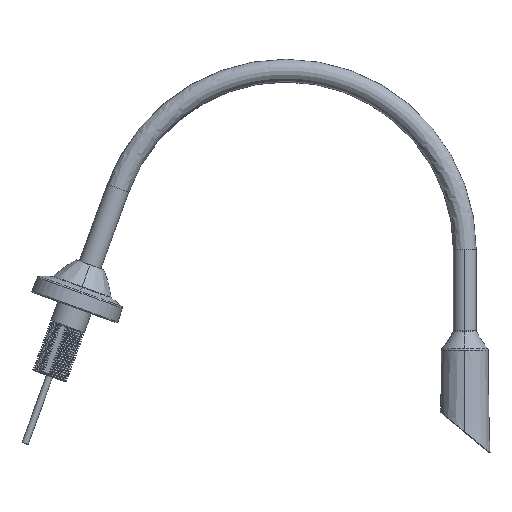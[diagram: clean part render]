
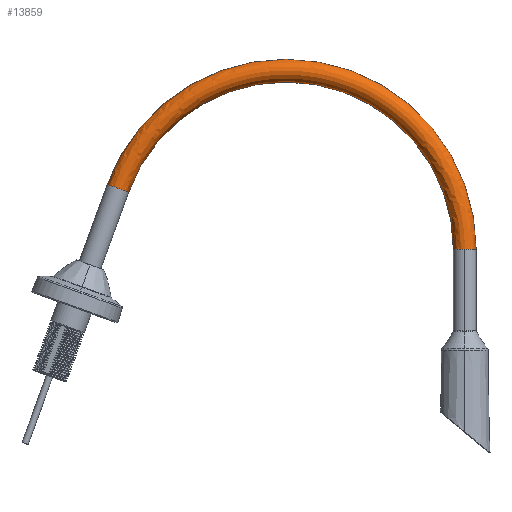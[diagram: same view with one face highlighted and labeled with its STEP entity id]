
A CAD part, top view. The second image highlights one B-rep face of the part: STEP entity #13859.
In plain terms, the highlighted free-form (B-spline) face has degree [3, 3] with [7, 4] control points.
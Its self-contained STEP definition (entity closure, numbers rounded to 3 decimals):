
#281 = CARTESIAN_POINT ( 'NONE',  ( 10.365, -12.988, 0. ) ) ;
#285 = DIRECTION ( 'NONE',  ( 0., 0., -1. ) ) ;
#293 = VERTEX_POINT ( 'NONE', #7275 ) ;
#300 = DIRECTION ( 'NONE',  ( 0., 1., 0. ) ) ;
#346 = AXIS2_PLACEMENT_3D ( 'NONE', #3948, #3952, #3985 ) ;
#441 = CARTESIAN_POINT ( 'NONE',  ( 120.365, -12.988, 0. ) ) ;
#450 = DIRECTION ( 'NONE',  ( 0., 1., 0. ) ) ;
#452 = DIRECTION ( 'NONE',  ( 0., 0., 1. ) ) ;
#805 = CARTESIAN_POINT ( 'NONE',  ( 113.365, -12.988, 0. ) ) ;
#858 = AXIS2_PLACEMENT_3D ( 'NONE', #441, #450, #452 ) ;
#924 = AXIS2_PLACEMENT_3D ( 'NONE', #281, #285, #300 ) ;
#944 = AXIS2_PLACEMENT_3D ( 'NONE', #15232, #15231, #15213 ) ;
#1781 = VERTEX_POINT ( 'NONE', #805 ) ;
#2236 = CARTESIAN_POINT ( 'NONE',  ( 127.365, -12.988, 0. ) ) ;
#3558 = EDGE_CURVE ( 'NONE', #1781, #293, #6340, .T. ) ;
#3641 = EDGE_CURVE ( 'NONE', #12277, #8680, #6294, .T. ) ;
#3655 = EDGE_CURVE ( 'NONE', #1781, #12404, #6311, .T. ) ;
#3948 = CARTESIAN_POINT ( 'NONE',  ( 120.365, -12.988, 0. ) ) ;
#3952 = DIRECTION ( 'NONE',  ( 0., 1., 0. ) ) ;
#3985 = DIRECTION ( 'NONE',  ( 0., 0., 1. ) ) ;
#4353 = CARTESIAN_POINT ( 'NONE',  ( 120.365, -12.988, 7. ) ) ;
#4357 = EDGE_CURVE ( 'NONE', #12404, #8680, #5479, .T. ) ;
#4794 = EDGE_CURVE ( 'NONE', #12277, #293, #4900, .T. ) ;
#4900 = CIRCLE ( 'NONE', #15842, 7. ) ;
#4962 =( BOUNDED_SURFACE ( )  B_SPLINE_SURFACE ( 3, 3, ( 
 ( #6827, #7063, #6807, #6801 ),
 ( #6780, #6776, #6763, #6748 ),
 ( #6740, #6720, #6715, #6703 ),
 ( #6687, #6671, #6667, #6657 ),
 ( #6639, #6622, #6617, #6603 ),
 ( #6587, #6574, #6572, #6561 ),
 ( #6545, #6526, #6521, #6506 ) ),
 .UNSPECIFIED., .F., .F., .T. ) 
 B_SPLINE_SURFACE_WITH_KNOTS ( ( 4, 3, 4 ),
 ( 4, 4 ),
 ( 0., 0.5, 1. ),
 ( 0., 1. ),
 .UNSPECIFIED. ) 
 GEOMETRIC_REPRESENTATION_ITEM ( )  RATIONAL_B_SPLINE_SURFACE ( (
 ( 1., 0.449, 0.449, 1.),
 ( 0.781, 0.351, 0.351, 0.781),
 ( 0.781, 0.351, 0.351, 0.781),
 ( 1., 0.449, 0.449, 1.),
 ( 0.781, 0.351, 0.351, 0.781),
 ( 0.781, 0.351, 0.351, 0.781),
 ( 1., 0.449, 0.449, 1.) ) ) 
 REPRESENTATION_ITEM ( '' )  SURFACE ( )  );
#5479 = CIRCLE ( 'NONE', #346, 7. ) ;
#6065 = CARTESIAN_POINT ( 'NONE',  ( -93.001, 24.635, 0. ) ) ;
#6086 = DIRECTION ( 'NONE',  ( 0.342, 0.94, 0. ) ) ;
#6090 = DIRECTION ( 'NONE',  ( 0.94, -0.342, 0. ) ) ;
#6294 = CIRCLE ( 'NONE', #924, 117. ) ;
#6311 = CIRCLE ( 'NONE', #858, 7. ) ;
#6340 = CIRCLE ( 'NONE', #944, 103. ) ;
#6506 = CARTESIAN_POINT ( 'NONE',  ( 113.4, -12.988, -0.699 ) ) ;
#6521 = CARTESIAN_POINT ( 'NONE',  ( 113.4, 137.639, -0.699 ) ) ;
#6526 = CARTESIAN_POINT ( 'NONE',  ( -34.939, 163.795, -0.699 ) ) ;
#6545 = CARTESIAN_POINT ( 'NONE',  ( -86.456, 22.252, -0.699 ) ) ;
#6561 = CARTESIAN_POINT ( 'NONE',  ( 112.957, -12.988, 3.712 ) ) ;
#6572 = CARTESIAN_POINT ( 'NONE',  ( 112.957, 136.992, 3.712 ) ) ;
#6574 = CARTESIAN_POINT ( 'NONE',  ( -34.744, 163.036, 3.712 ) ) ;
#6587 = CARTESIAN_POINT ( 'NONE',  ( -86.04, 22.101, 3.712 ) ) ;
#6603 = CARTESIAN_POINT ( 'NONE',  ( 115.932, -12.988, 7. ) ) ;
#6617 = CARTESIAN_POINT ( 'NONE',  ( 115.932, 141.34, 7. ) ) ;
#6622 = CARTESIAN_POINT ( 'NONE',  ( -36.052, 168.139, 7. ) ) ;
#6639 = CARTESIAN_POINT ( 'NONE',  ( -88.835, 23.118, 7. ) ) ;
#6657 = CARTESIAN_POINT ( 'NONE',  ( 120.365, -12.988, 7. ) ) ;
#6667 = CARTESIAN_POINT ( 'NONE',  ( 120.365, 147.822, 7. ) ) ;
#6671 = CARTESIAN_POINT ( 'NONE',  ( -38.001, 175.746, 7. ) ) ;
#6687 = CARTESIAN_POINT ( 'NONE',  ( -93.001, 24.635, 7. ) ) ;
#6703 = CARTESIAN_POINT ( 'NONE',  ( 124.798, -12.988, 7. ) ) ;
#6715 = CARTESIAN_POINT ( 'NONE',  ( 124.798, 154.303, 7. ) ) ;
#6720 = CARTESIAN_POINT ( 'NONE',  ( -39.951, 183.352, 7. ) ) ;
#6740 = CARTESIAN_POINT ( 'NONE',  ( -97.167, 26.151, 7. ) ) ;
#6748 = CARTESIAN_POINT ( 'NONE',  ( 127.773, -12.988, 3.712 ) ) ;
#6763 = CARTESIAN_POINT ( 'NONE',  ( 127.773, 158.651, 3.712 ) ) ;
#6776 = CARTESIAN_POINT ( 'NONE',  ( -41.258, 188.455, 3.712 ) ) ;
#6780 = CARTESIAN_POINT ( 'NONE',  ( -99.962, 27.168, 3.712 ) ) ;
#6801 = CARTESIAN_POINT ( 'NONE',  ( 127.33, -12.988, -0.699 ) ) ;
#6807 = CARTESIAN_POINT ( 'NONE',  ( 127.33, 158.004, -0.699 ) ) ;
#6827 = CARTESIAN_POINT ( 'NONE',  ( -99.546, 27.017, -0.699 ) ) ;
#7063 = CARTESIAN_POINT ( 'NONE',  ( -41.064, 187.696, -0.699 ) ) ;
#7245 = CARTESIAN_POINT ( 'NONE',  ( -99.579, 27.029, 0. ) ) ;
#7275 = CARTESIAN_POINT ( 'NONE',  ( -86.423, 22.24, 0. ) ) ;
#8680 = VERTEX_POINT ( 'NONE', #2236 ) ;
#9664 = ORIENTED_EDGE ( 'NONE', *, *, #3641, .F. ) ;
#9762 = ORIENTED_EDGE ( 'NONE', *, *, #4357, .T. ) ;
#10488 = ORIENTED_EDGE ( 'NONE', *, *, #4794, .T. ) ;
#10820 = ORIENTED_EDGE ( 'NONE', *, *, #3655, .T. ) ;
#11112 = FACE_OUTER_BOUND ( 'NONE', #14459, .T. ) ;
#11211 = ORIENTED_EDGE ( 'NONE', *, *, #3558, .F. ) ;
#12277 = VERTEX_POINT ( 'NONE', #7245 ) ;
#12404 = VERTEX_POINT ( 'NONE', #4353 ) ;
#13859 = ADVANCED_FACE ( 'NONE', ( #11112 ), #4962, .T. ) ;
#14459 = EDGE_LOOP ( 'NONE', ( #11211, #10820, #9762, #9664, #10488 ) ) ;
#15213 = DIRECTION ( 'NONE',  ( 0., -1., 0. ) ) ;
#15231 = DIRECTION ( 'NONE',  ( 0., 0., 1. ) ) ;
#15232 = CARTESIAN_POINT ( 'NONE',  ( 10.365, -12.988, 0. ) ) ;
#15842 = AXIS2_PLACEMENT_3D ( 'NONE', #6065, #6086, #6090 ) ;
